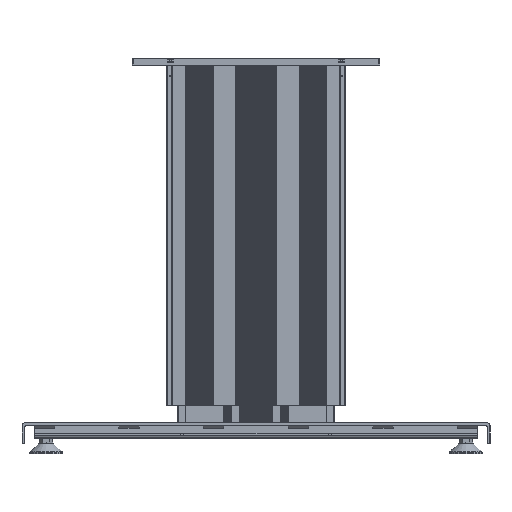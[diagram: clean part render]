
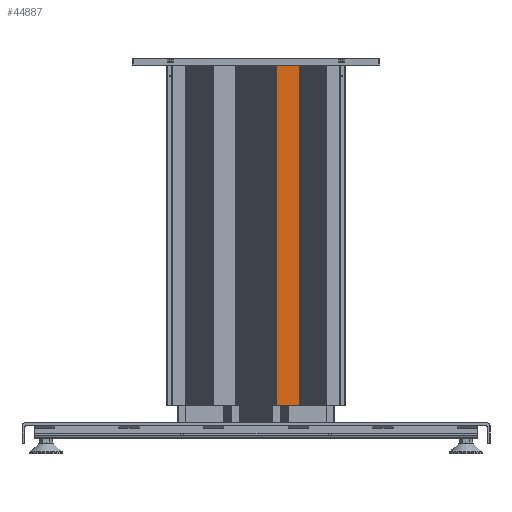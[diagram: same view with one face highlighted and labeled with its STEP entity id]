
A CAD part, front view. The second image highlights one B-rep face of the part: STEP entity #44887.
In plain terms, the highlighted planar face has unit normal (0, -1, 0) as drawn and (0, 0, -1) by its records, which use the part's own axes.
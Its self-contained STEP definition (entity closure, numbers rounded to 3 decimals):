
#10194=ORIENTED_EDGE('',*,*,#21121,.T.);
#10195=ORIENTED_EDGE('',*,*,#19997,.F.);
#10196=ORIENTED_EDGE('',*,*,#21122,.F.);
#10197=ORIENTED_EDGE('',*,*,#21123,.T.);
#19997=EDGE_CURVE('',#25931,#25932,#30135,.T.);
#21121=EDGE_CURVE('',#26949,#25932,#30923,.T.);
#21122=EDGE_CURVE('',#26950,#25931,#30924,.T.);
#21123=EDGE_CURVE('',#26950,#26949,#30925,.T.);
#25931=VERTEX_POINT('',#80445);
#25932=VERTEX_POINT('',#80447);
#26949=VERTEX_POINT('',#82707);
#26950=VERTEX_POINT('',#82709);
#30135=LINE('',#80446,#34600);
#30923=LINE('',#82706,#35388);
#30924=LINE('',#82708,#35389);
#30925=LINE('',#82710,#35390);
#34600=VECTOR('',#66115,1000.);
#35388=VECTOR('',#67777,1000.);
#35389=VECTOR('',#67778,1000.);
#35390=VECTOR('',#67779,1000.);
#38330=EDGE_LOOP('',(#10194,#10195,#10196,#10197));
#40946=FACE_BOUND('',#38330,.T.);
#43103=PLANE('',#58585);
#44887=ADVANCED_FACE('',(#40946),#43103,.T.);
#58585=AXIS2_PLACEMENT_3D('',#82705,#67775,#67776);
#66115=DIRECTION('',(1.,0.,0.));
#67775=DIRECTION('',(0.,0.,-1.));
#67776=DIRECTION('',(-1.,0.,0.));
#67777=DIRECTION('',(0.,-1.,0.));
#67778=DIRECTION('',(0.,-1.,0.));
#67779=DIRECTION('',(1.,0.,0.));
#80445=CARTESIAN_POINT('',(-62.9,0.,-30.));
#80446=CARTESIAN_POINT('',(0.,0.,-30.));
#80447=CARTESIAN_POINT('',(-29.56,0.,-30.));
#82705=CARTESIAN_POINT('',(0.,495.,-30.));
#82706=CARTESIAN_POINT('',(-29.56,562.339,-30.));
#82707=CARTESIAN_POINT('',(-29.56,495.,-30.));
#82708=CARTESIAN_POINT('',(-62.9,562.339,-30.));
#82709=CARTESIAN_POINT('',(-62.9,495.,-30.));
#82710=CARTESIAN_POINT('',(0.,495.,-30.));
